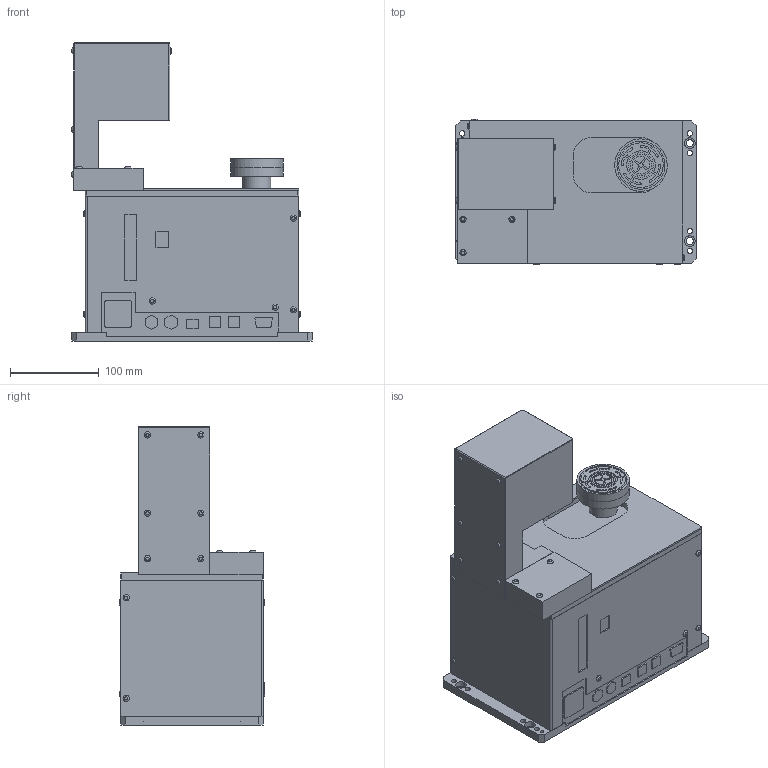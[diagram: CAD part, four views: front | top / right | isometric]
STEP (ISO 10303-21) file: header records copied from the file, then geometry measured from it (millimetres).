
FILE_DESCRIPTION(/* description */ (''),/* implementation_level */ '2;1');
FILE_NAME(/* name */ 'C:\Users\h-mitaka\Desktop\\X2\FF8EFF70FF91FF8DFF9FFF70FF7CFF9E7528\X0\\3D-11473\SAL38C3HV-11473.stp',/* time_stamp */ '2016-11-25T14:04:21+09:00',/* author */ ('h-mitaka'),/* organization */ (''),/* preprocessor_version */ 'ST-DEVELOPER v16.1',/* originating_system */ 'Autodesk Inventor 2016',/* authorisation */ '');
FILE_SCHEMA (('AUTOMOTIVE_DESIGN { 1 0 10303 214 3 1 1 }'));
Length unit declared in the file: millimetre
Products named in the file (3): SAL38C3HV-205; SUCTION_PAD-59-L1; SAL38C3HV-11473
Assembly tree (2 placements, depth 2):
  SAL38C3HV-11473
    SAL38C3HV-205
    SUCTION_PAD-59-L1
Bounding box: 270 x 163.78 x 335 mm (x, y, z)
Volume: 7734669.6 mm3; surface area: 317543.6 mm2
Topology: 2 solids, 2 shells, 340 faces, 832 edges, 548 vertices
Faces by surface type: plane 200, cylinder 119, torus 21
Full cylindrical faces by diameter (mm): 4 x1, 6 x8, 6.9 x21, 8 x4, 12 x4, 31.5 x1, 40 x1, 54 x1, 58.99 x1, 59 x1
Entity records: 9736 total; most frequent: DIRECTION 1713, CARTESIAN_POINT 1643, ORIENTED_EDGE 1518, EDGE_CURVE 759, AXIS2_PLACEMENT_3D 609, VERTEX_POINT 539, LINE 495, VECTOR 495
